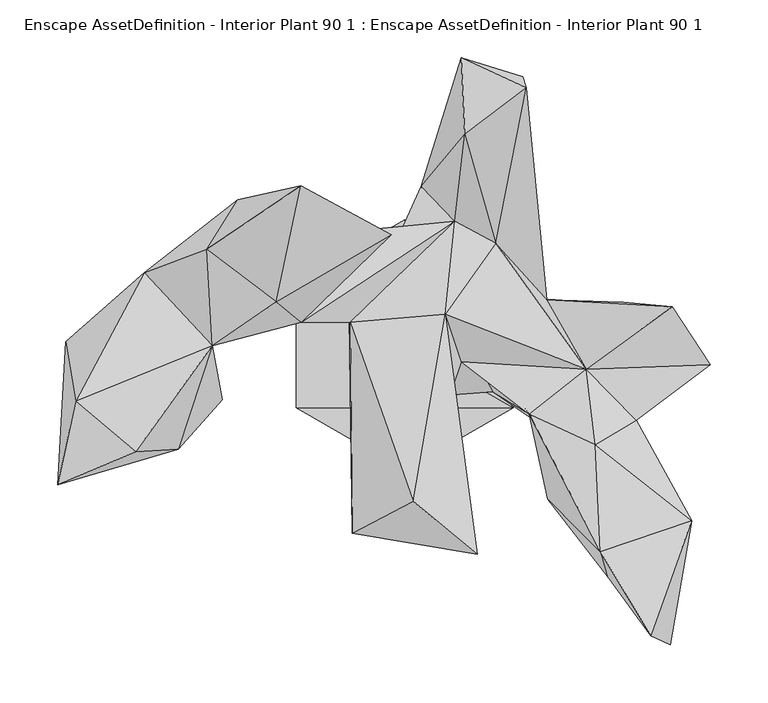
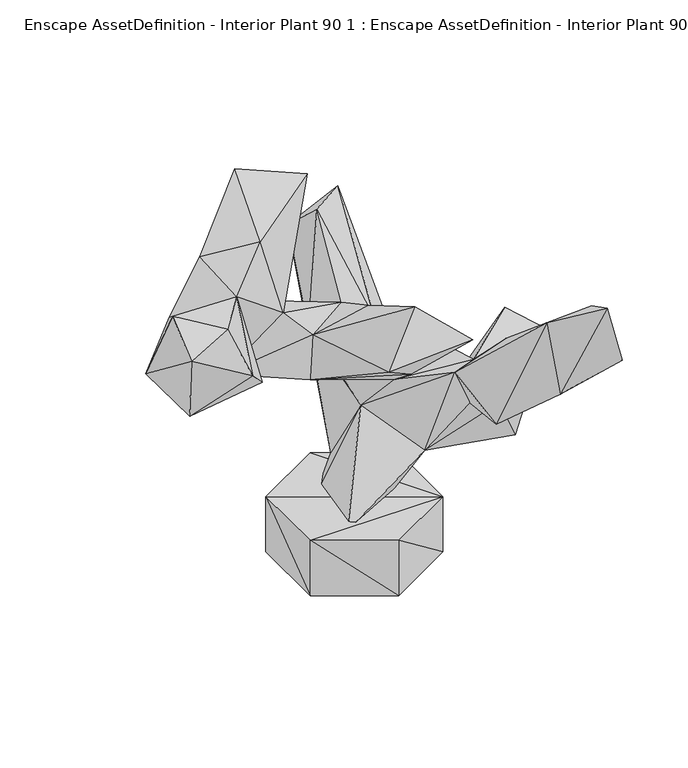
"""IFC4 building model written with IfcOpenShell, lengths in millimetres: geographic element geometry, Enscape AssetDefinition - Interior Plant 90 1 : Enscape AssetDefinition - Interior Plant 90 1."""

import ifcopenshell
import ifcopenshell.guid

model = None  # the IFC model being written
_history = None  # IfcOwnerHistory: only IFC2X3 demands one
_inside = {}  # id of a spatial element -> (the spatial element, [elements in it])
_under = {}  # id of a project, library or spatial element -> (it, [spatial elements below it])
_declared = {}  # id of a project -> (the project, [libraries it declares])
_typed = {}  # id of a type object -> (the type object, [elements of that type])
_made_of = {}  # id of a material, layer set ... -> (it, [elements and type objects made of it])


def new_model(schema):
    """Start an empty IFC model of exactly this schema.

    Asked for "IFC4X3", IfcOpenShell would pick the latest addendum, in which some entities
    have other attributes; the version numbers below select the first issue.
    IFC2X3 requires an IfcOwnerHistory on every rooted entity: one is made here for all.
    """
    global model, _history
    if schema == "IFC4X3":
        model = ifcopenshell.file(schema_version=(4, 3, 0, 0))
    else:
        model = ifcopenshell.file(schema=schema)
    _inside.clear()
    _under.clear()
    _declared.clear()
    _typed.clear()
    _made_of.clear()
    _history = None
    if model.schema == "IFC2X3":
        org = make("IfcOrganization", Name="unknown")
        user = make(
            "IfcPersonAndOrganization",
            ThePerson=make("IfcPerson", FamilyName="unknown"),
            TheOrganization=org,
        )
        app = make(
            "IfcApplication",
            ApplicationDeveloper=org,
            Version="unknown",
            ApplicationFullName="unknown",
            ApplicationIdentifier="unknown",
        )
        _history = make(
            "IfcOwnerHistory",
            OwningUser=user,
            OwningApplication=app,
            ChangeAction="ADDED",
            CreationDate=0,
        )
    return model


def make(cls, **values):
    """One entity of the class cls with the attributes given. An attribute that is None is left unset."""
    return model.create_entity(
        cls, **{name: value for name, value in values.items() if value is not None}
    )


def rooted(cls, **values):
    """An entity with a GlobalId (a new one), such as an element, a storey or a relation."""
    return make(cls, GlobalId=ifcopenshell.guid.new(), OwnerHistory=_history, **values)


def si_unit(unit_type, name, prefix=None):
    """IfcSIUnit, for example si_unit("LENGTHUNIT", "METRE", prefix="MILLI")."""
    return make("IfcSIUnit", UnitType=unit_type, Prefix=prefix, Name=name)


def assignment(units):
    """IfcUnitAssignment: the units of a project."""
    return None if units is None else make("IfcUnitAssignment", Units=units)


def point(xyz):
    """IfcCartesianPoint."""
    return None if xyz is None else make("IfcCartesianPoint", Coordinates=xyz)


def direction(xyz):
    """IfcDirection."""
    return None if xyz is None else make("IfcDirection", DirectionRatios=xyz)


def frame(location, z_axis=None, x_axis=None):
    """IfcAxis2Placement3D, a coordinate frame: its origin and axes. An axis left out is left unset."""
    return make(
        "IfcAxis2Placement3D",
        Location=point(location),
        Axis=direction(z_axis),
        RefDirection=direction(x_axis),
    )


def origin():
    """The frame at (0, 0, 0) with its axes left unset."""
    return frame((0.0, 0.0, 0.0))


def place(relative_to, where):
    """IfcLocalPlacement: puts the frame where relative to a parent placement (None: the world)."""
    return make(
        "IfcLocalPlacement", PlacementRelTo=relative_to, RelativePlacement=where
    )


def context(
    kind, dimensions, precision=None, world=None, true_north=None, identifier=None
):
    """IfcGeometricRepresentationContext, for example the 3D "Model" context."""
    return make(
        "IfcGeometricRepresentationContext",
        ContextIdentifier=identifier,
        ContextType=kind,
        CoordinateSpaceDimension=dimensions,
        Precision=precision,
        WorldCoordinateSystem=world,
        TrueNorth=true_north,
    )


def project(units=None, contexts=None):
    """IfcProject with its units and contexts."""
    return rooted(
        "IfcProject",
        Name="project",
        RepresentationContexts=contexts,
        UnitsInContext=assignment(units),
    )


def spatial(cls, under=None, at=None, **own):
    """A site, building, storey or space (cls), placed at a placement, below another one or the project."""
    s = rooted(cls, ObjectPlacement=at, **own)
    if under is not None:
        _under.setdefault(under.id(), (under, []))[1].append(s)
    return s


def faces_of(points, faces, orient=None, outer=None):
    """IfcFace entities. A face is a list of loops; a loop is a list of indices into points, from 0.

    orient and outer hold one flag for each loop. By default every Orientation is true, the
    first loop of a face is its IfcFaceOuterBound and the others are IfcFaceBound.
    """
    made = []
    for i, loops in enumerate(faces):
        bounds = []
        for j, loop in enumerate(loops):
            is_outer = j == 0 if outer is None else outer[i][j]
            bounds.append(
                make(
                    "IfcFaceOuterBound" if is_outer else "IfcFaceBound",
                    Bound=make("IfcPolyLoop", Polygon=[points[k] for k in loop]),
                    Orientation=True if orient is None else orient[i][j],
                )
            )
        made.append(make("IfcFace", Bounds=bounds))
    return made


def faceted_brep(points, faces, orient=None, outer=None, voids=None):
    """IfcFacetedBrep: a solid bounded by flat faces; with voids (closed shells), ...WithVoids."""
    shared = [point(p) for p in points]
    hull = make("IfcClosedShell", CfsFaces=faces_of(shared, faces, orient, outer))
    if voids is None:
        return make("IfcFacetedBrep", Outer=hull)
    return make(
        "IfcFacetedBrepWithVoids",
        Outer=hull,
        Voids=[
            make(cls, CfsFaces=faces_of(shared, fs, o, b)) for cls, fs, o, b in voids
        ],
    )


def shape(context_of_items, identifier, shape_type, items):
    """IfcShapeRepresentation: the items that make up one representation, for example the "Body"."""
    return make(
        "IfcShapeRepresentation",
        ContextOfItems=context_of_items,
        RepresentationIdentifier=identifier,
        RepresentationType=shape_type,
        Items=items,
    )


def source(mapping_origin, context_of_items, identifier, shape_type, items):
    """IfcRepresentationMap: a shape defined once, which mapped items show again and again."""
    return make(
        "IfcRepresentationMap",
        MappingOrigin=mapping_origin,
        MappedRepresentation=shape(context_of_items, identifier, shape_type, items),
    )


def transform(
    local_origin,
    x_axis=None,
    y_axis=None,
    z_axis=None,
    scale=None,
    scale2=None,
    scale3=None,
    uniform=True,
):
    """IfcCartesianTransformationOperator3D, or its non-uniform kind. x_axis, y_axis, z_axis: its Axis1, 2, 3."""
    if uniform:
        return make(
            "IfcCartesianTransformationOperator3D",
            Axis1=direction(x_axis),
            Axis2=direction(y_axis),
            LocalOrigin=point(local_origin),
            Scale=scale,
            Axis3=direction(z_axis),
        )
    return make(
        "IfcCartesianTransformationOperator3DnonUniform",
        Axis1=direction(x_axis),
        Axis2=direction(y_axis),
        LocalOrigin=point(local_origin),
        Scale=scale,
        Axis3=direction(z_axis),
        Scale2=scale2,
        Scale3=scale3,
    )


def mapped(mapping_source, mapping_target):
    """IfcMappedItem: shows the shape of a source again, moved by a transform."""
    return make(
        "IfcMappedItem", MappingSource=mapping_source, MappingTarget=mapping_target
    )


def made_of(thing, what):
    """Note that an element or type object is made of a material, layer set ...; save() writes the relation."""
    if what is not None:
        _made_of.setdefault(what.id(), (what, []))[1].append(thing)
    return thing


def element(
    cls,
    number,
    at=None,
    inside=None,
    cuts=None,
    type_object=None,
    material=None,
    context=None,
    identifier="Body",
    shape_type=None,
    held_by="IfcProductDefinitionShape",
    body=None,
    shapes=None,
    **own,
):
    """One element of the class cls, such as IfcWall. Its Tag is "e" and its number.

    at: its placement. inside: the storey or other place that contains it. cuts: it is an
    opening in that element (IfcRelVoidsElement). A single representation is given by context,
    identifier, shape_type and body (its items); several are given by shapes. held_by: the class
    of the entity that holds the representations. save() writes the other relations.
    """
    e = rooted(cls, Tag="e%d" % number, ObjectPlacement=at, **own)
    if body is not None:
        shapes = [shape(context, identifier, shape_type, body)]
    if shapes is not None:
        e.Representation = make(held_by, Representations=shapes)
    if inside is not None:
        _inside.setdefault(inside.id(), (inside, []))[1].append(e)
    if cuts is not None:
        rooted(
            "IfcRelVoidsElement", RelatingBuildingElement=cuts, RelatedOpeningElement=e
        )
    if type_object is not None:
        _typed.setdefault(type_object.id(), (type_object, []))[1].append(e)
    return made_of(e, material)


def aggregate(whole, parts):
    """IfcRelAggregates: a whole, such as a stair, and the parts it consists of."""
    return rooted("IfcRelAggregates", RelatingObject=whole, RelatedObjects=parts)


def save(model, path):
    """Write the relations noted so far, then the file.

    IfcRelAggregates (storeys below a building ...), IfcRelContainedInSpatialStructure (elements
    in a storey), IfcRelDefinesByType, IfcRelAssociatesMaterial and IfcRelDeclares: one each for
    every whole, place, type object, material and project.
    """
    for whole, parts in _under.values():
        aggregate(whole, parts)
    for where, things in _inside.values():
        rooted(
            "IfcRelContainedInSpatialStructure",
            RelatedElements=things,
            RelatingStructure=where,
        )
    for kind, things in _typed.values():
        rooted("IfcRelDefinesByType", RelatedObjects=things, RelatingType=kind)
    for what, things in _made_of.values():
        rooted("IfcRelAssociatesMaterial", RelatedObjects=things, RelatingMaterial=what)
    for by, libraries in _declared.values():
        rooted("IfcRelDeclares", RelatingContext=by, RelatedDefinitions=libraries)
    model.write(path)


def enscape_assetdefinition_interior_plant_90_1_enscape_fa028396(model_context):
    return source(origin(), model_context, "Body", "Brep", [
        faceted_brep([(-293.3529913, 3.1000001, 366.7219877), (-299.9989986, -120.9120005, 463.2790089), (-284.6669853, -48.3819991, 481.5559983), (-251.154989, -31.9209993, 310.2670014), (-232.6299995, -92.2869965, 470.3760147), (-195.8139986, -89.9500027, 386.7079914), (-166.4229929, -0.642, 439.6960139), (-225.3549993, 62.5159964, 391.5869892), (-181.5939993, 81.8800032, 334.6840143), (-171.5160012, 22.3689992, 312.0009899), (-157.6319933, -47.141999, 337.1840119), (-47.8460006, 25.2739992, 258.4730089), (-46.980001, 19.9120007, 328.5900056), (-89.3639997, 19.7620001, 376.6160011), (-1.5519999, 101.7839983, 271.6349959), (-45.6250012, -162.7199948, 382.9039931), (16.353, -109.9079996, 326.1179924), (48.7059988, -14.4509999, 249.5640069), (35.0160003, 26.5389998, 339.9640024), (62.8409982, -181.0539961, 404.7090113), (7.4550002, -134.9049956, 445.8720088), (43.3799997, 106.8869978, 293.1680083), (78.8109973, 87.8949985, 269.1400051), (156.9399983, -20.7029991, 245.6499934), (51.8959984, 182.2780073, 383.6709857), (105.1760018, 222.5019932, 375.3429949), (122.6769984, 39.4020006, 129.1829944), (14.0319997, 137.153998, 243.8420057), (49.0010008, 248.3649999, 321.2920129), (101.8619984, 231.9200039, 315.9120083), (9.42, 73.5879987, 100.5399972), (75.8740008, 113.4629995, 107.5149998), (31.8979993, 38.9369987, 184.4699979), (-30.9779998, 44.1589989, 64.2039999), (35.8589999, 2.4649999, 52.0979986), (188.9549941, 37.2829996, 106.9590002), (76.2759969, -40.1259996, 149.6960074), (231.4639986, 32.9639986, 264.4650042), (-37.4169983, -48.9890017, 74.6520013), (121.7750013, -71.8559995, 224.0590006), (107.5920016, -59.8610006, 267.4050033), (171.0840017, -58.9630008, 198.5310018), (208.6279988, -32.8189991, 121.5529963), (123.4909967, -133.3030015, 228.4300029), (264.0630007, -17.066, 250.1899898), (175.2880067, -200.4069984, 295.7650125), (225.1680046, -145.0410038, 254.9580038), (200.2539933, -64.985998, 254.0450096), (164.7730023, -86.3709971, 314.27899), (247.9950041, -152.0860046, 373.0010092), (229.3400019, -259.1489851, 363.6400104), (169.2270041, -178.7990034, 391.9259906), (212.5850022, -251.199007, 442.4099922), (-99.0720019, 93.1710005, 354.4270098), (-11.5109999, 95.5419987, 511.7139816), (-144.5550025, 125.8160025, 402.090013), (-89.9190009, 137.5620067, 520.9869742), (-171.1789966, 82.739003, 451.3019919), (-111.217998, 37.4430008, 480.1920056)], [[[0, 1, 2]], [[3, 1, 0]], [[2, 1, 4]], [[4, 1, 5]], [[3, 5, 1]], [[6, 2, 4]], [[7, 0, 2]], [[6, 7, 2]], [[0, 8, 9]], [[0, 9, 3]], [[0, 7, 8]], [[10, 5, 3]], [[3, 9, 10]], [[6, 4, 5]], [[6, 5, 10]], [[9, 6, 10]], [[9, 11, 12]], [[13, 9, 12]], [[13, 6, 9]], [[9, 8, 14]], [[14, 11, 9]], [[15, 11, 16]], [[11, 15, 12]], [[11, 17, 16]], [[14, 17, 11]], [[17, 18, 16]], [[16, 18, 19]], [[15, 16, 19]], [[12, 15, 20]], [[15, 19, 20]], [[18, 20, 19]], [[20, 18, 12]], [[21, 18, 22]], [[23, 18, 17]], [[22, 18, 23]], [[21, 12, 18]], [[24, 21, 22]], [[25, 22, 26]], [[22, 23, 26]], [[25, 24, 22]], [[24, 27, 21]], [[28, 27, 24]], [[28, 24, 25]], [[25, 29, 28]], [[29, 25, 26]], [[28, 30, 27]], [[28, 29, 31]], [[30, 28, 31]], [[27, 32, 14]], [[27, 30, 32]], [[14, 21, 27]], [[30, 33, 32]], [[31, 26, 30]], [[30, 34, 33]], [[30, 26, 34]], [[29, 26, 31]], [[26, 35, 36]], [[37, 26, 23]], [[26, 36, 34]], [[26, 37, 35]], [[34, 38, 33]], [[34, 36, 38]], [[33, 38, 32]], [[32, 38, 36]], [[39, 40, 36]], [[40, 32, 36]], [[41, 36, 42]], [[35, 42, 36]], [[41, 39, 36]], [[40, 39, 43]], [[43, 39, 41]], [[41, 42, 44]], [[45, 43, 41]], [[41, 46, 45]], [[41, 47, 46]], [[44, 47, 41]], [[35, 44, 42]], [[37, 23, 44]], [[44, 23, 47]], [[37, 44, 35]], [[48, 47, 23]], [[47, 49, 46]], [[48, 49, 47]], [[49, 50, 46]], [[50, 45, 46]], [[49, 51, 52]], [[49, 48, 51]], [[49, 52, 50]], [[40, 51, 48]], [[40, 48, 23]], [[23, 17, 40]], [[17, 32, 40]], [[51, 40, 43]], [[45, 51, 43]], [[51, 45, 52]], [[45, 50, 52]], [[14, 32, 17]], [[8, 53, 14]], [[21, 14, 53]], [[54, 53, 55]], [[54, 13, 53]], [[53, 13, 21]], [[55, 53, 8]], [[55, 8, 7]], [[56, 55, 57]], [[55, 7, 57]], [[55, 56, 54]], [[56, 58, 54]], [[54, 58, 13]], [[13, 12, 21]], [[58, 6, 13]], [[57, 6, 58]], [[56, 57, 58]], [[57, 7, 6]]]),
        faceted_brep([(0.0, 108.2990021, 0.0), (-93.7889963, 54.1490018, 0.0), (0.0, 108.2990021, 82.7089995), (-93.7889963, -54.1490018, 0.0), (-93.7889963, 54.1490018, 82.7089995), (0.0, -108.2990021, 0.0), (-93.7889963, -54.1490018, 82.7089995), (93.7889963, -54.1490018, 0.0), (0.0, -108.2990021, 82.7089995), (93.7889963, 54.1490018, 0.0), (93.7889963, -54.1490018, 82.7089995), (93.7889963, 54.1490018, 82.7089995)], [[[0, 1, 2]], [[1, 3, 4]], [[3, 5, 6]], [[5, 7, 8]], [[7, 9, 10]], [[9, 0, 11]], [[0, 3, 1]], [[2, 10, 11]], [[2, 1, 4]], [[4, 3, 6]], [[6, 5, 8]], [[8, 7, 10]], [[10, 9, 11]], [[11, 0, 2]], [[3, 0, 9]], [[3, 9, 7]], [[3, 7, 5]], [[10, 2, 4]], [[10, 4, 6]], [[10, 6, 8]]]),
    ])


if __name__ == "__main__":
    model = new_model("IFC4")
    model_context = context("Model", 3, world=origin())
    ifc_project = project(units=[si_unit("LENGTHUNIT", "METRE", prefix="MILLI")], contexts=[model_context])
    site = spatial("IfcSite", under=ifc_project)
    building = spatial("IfcBuilding", under=site)
    placement = place(None, origin())
    enscape_assetdefinition_interior_plant_90_1_enscape_shape = enscape_assetdefinition_interior_plant_90_1_enscape_fa028396(model_context)
    element("IfcGeographicElement", 1, ObjectType="Enscape AssetDefinition - Interior Plant 90 1 : Enscape AssetDefinition - Interior Plant 90 1", at=placement, inside=building, context=model_context, shape_type="MappedRepresentation", body=[
        mapped(enscape_assetdefinition_interior_plant_90_1_enscape_shape, transform((0.0, 0.0, 0.0), x_axis=(1.0, 0.0, 0.0), y_axis=(0.0, 1.0, 0.0), z_axis=(0.0, 0.0, 1.0))),
    ])
    save(model, "model.ifc")
